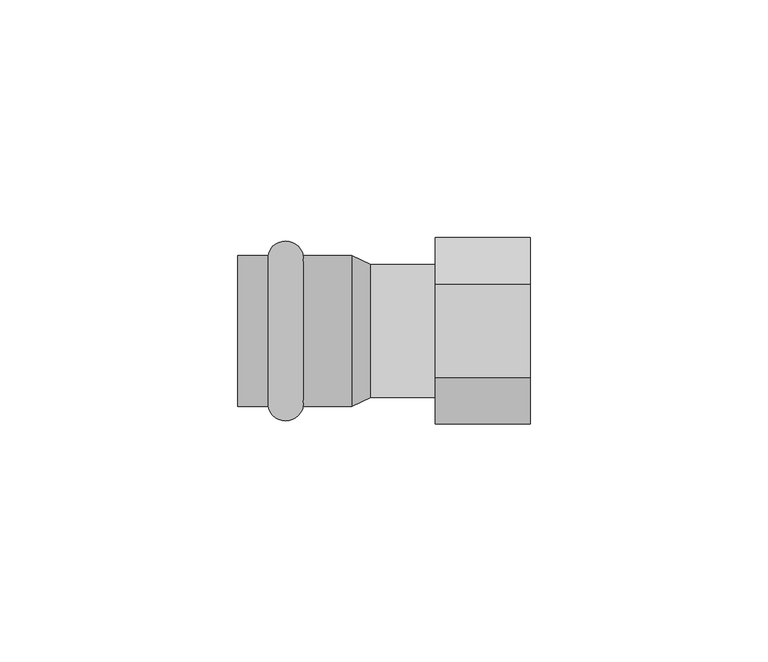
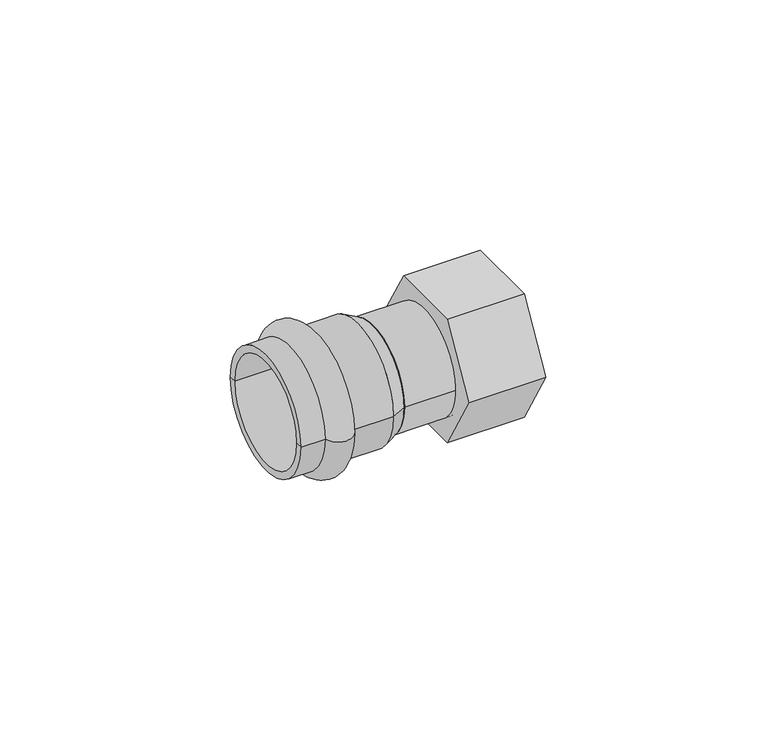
"""IFC4 building model written with IfcOpenShell, lengths in millimetres: pipe fitting geometry, VALTEC_VTi.908.I_Соединитель с накидной гайкой_Нержавеющая сталь : VTi.908.I."""

from ifc_helpers import new_model, si_unit, point, frame, origin, origin_2d, place, context, project, spatial, polyline, circle_curve, ellipse_curve, trimmed, segment, composite_curve, outline, extrude, source, transform, mapped, element, save
from ifc_brep_helpers import plane_surface, cylinder_surface, revolved_surface, advanced_brep


def pipe_fitting_75d1bc3f(model_context):
    return source(origin(), model_context, "Body", "SolidModel", [
        advanced_brep(
        [(-45.1242346, -15.9, 0.0), (-45.1242346, 15.9, 0.0), (-37.7757654, 15.9, 0.0), (-37.7757654, -15.9, 0.0), (-51.5, -15.9, 0.0), (-51.5, 15.9, 0.0), (-51.5, -14.0, 0.0), (-51.5, 14.0, 0.0), (-27.5, -14.0, 0.0), (-27.5, 14.0, 0.0), (-27.5, -15.9, 0.0), (-27.5, 15.9, 0.0)],
        [
            (0, 1, circle_curve(frame((-45.1242346, 0.0, 0.0), z_axis=(1.0, 0.0, 0.0), x_axis=(0.0, 1.0, 0.0)), 15.9)),
            (1, 2, circle_curve(frame((-41.45, 15.15, 0.0), z_axis=(0.0, 0.0, -1.0), x_axis=(1.0, 0.0, 0.0)), 3.75)),
            (2, 3, circle_curve(frame((-37.7757654, 0.0, 0.0), z_axis=(-1.0, 0.0, 0.0), x_axis=(0.0, 1.0, 0.0)), 15.9)),
            (3, 0, circle_curve(frame((-41.45, -15.15, 0.0), z_axis=(0.0, 0.0, -1.0), x_axis=(1.0, 0.0, 0.0)), 3.75)),
            (1, 0, circle_curve(frame((-45.1242346, 0.0, 0.0), z_axis=(1.0, 0.0, 0.0), x_axis=(0.0, 1.0, 0.0)), 15.9)),
            (3, 2, circle_curve(frame((-37.7757654, 0.0, 0.0), z_axis=(-1.0, 0.0, 0.0), x_axis=(0.0, 1.0, 0.0)), 15.9)),
            (4, 5, circle_curve(frame((-51.5, 0.0, 0.0), z_axis=(1.0, 0.0, 0.0), x_axis=(0.0, 1.0, 0.0)), 15.9)),
            (5, 1),
            (0, 4),
            (5, 4, circle_curve(frame((-51.5, 0.0, 0.0), z_axis=(1.0, 0.0, 0.0), x_axis=(0.0, 1.0, 0.0)), 15.9)),
            (6, 7, circle_curve(frame((-51.5, 0.0, 0.0), z_axis=(1.0, 0.0, 0.0), x_axis=(0.0, 1.0, 0.0)), 14.0)),
            (7, 5),
            (4, 6),
            (7, 6, circle_curve(frame((-51.5, 0.0, 0.0), z_axis=(1.0, 0.0, 0.0), x_axis=(0.0, 1.0, 0.0)), 14.0)),
            (8, 9, circle_curve(frame((-27.5, 0.0, 0.0), z_axis=(1.0, 0.0, 0.0), x_axis=(0.0, 1.0, 0.0)), 14.0)),
            (9, 7),
            (6, 8),
            (9, 8, circle_curve(frame((-27.5, 0.0, 0.0), z_axis=(1.0, 0.0, 0.0), x_axis=(0.0, 1.0, 0.0)), 14.0)),
            (10, 11, circle_curve(frame((-27.5, 0.0, 0.0), z_axis=(1.0, 0.0, 0.0), x_axis=(0.0, 1.0, 0.0)), 15.9)),
            (11, 9),
            (8, 10),
            (11, 10, circle_curve(frame((-27.5, 0.0, 0.0), z_axis=(1.0, 0.0, 0.0), x_axis=(0.0, 1.0, 0.0)), 15.9)),
            (2, 11),
            (10, 3),
        ],
        [
            revolved_surface(trimmed(ellipse_curve(frame((-41.45, 15.15, 0.0), z_axis=(0.0, 0.0, 1.0), x_axis=(1.0, 0.0, 0.0)), 3.75, 3.75), [point((-37.7757654, 15.9, 0.0))], [point((-45.1242346, 15.9, 0.0))], True, "CARTESIAN"), (-55.0364426, 0.0, 0.0), (-1.0, 0.0, 0.0)),
            cylinder_surface(frame((-55.0364426, 0.0, 0.0), z_axis=(-1.0, 0.0, 0.0), x_axis=(0.0, 1.0, 0.0)), 15.9),
            plane_surface(frame((-51.5, 0.0, 0.0), z_axis=(-1.0, 0.0, 0.0), x_axis=(0.0, 1.0, 0.0))),
            revolved_surface(polyline([(-51.5, 14.0, 0.0), (-27.5, 14.0, 0.0)]), (-55.0364426, 0.0, 0.0), (-1.0, 0.0, 0.0)),
            plane_surface(frame((-27.5, 0.0, 0.0), z_axis=(1.0, 0.0, 0.0), x_axis=(0.0, 1.0, 0.0))),
        ],
        [
            (0, [[1, 2, 3, 4]]),
            (0, [[5, -4, 6, -2]]),
            (1, [[7, 8, -1, 9]]),
            (1, [[10, -9, -5, -8]]),
            (2, [[11, 12, -7, 13]]),
            (2, [[14, -13, -10, -12]]),
            (3, [[15, 16, -11, 17]]),
            (3, [[18, -17, -14, -16]]),
            (4, [[19, 20, -15, 21]]),
            (4, [[22, -21, -18, -20]]),
            (1, [[-3, 23, -19, 24]]),
            (1, [[-6, -24, -22, -23]]),
        ],
    ),
        extrude(outline(polyline([(-19.6299092, 0.0), (-9.8149546, 17.0), (9.8149546, 17.0), (19.6299092, 0.0), (9.8149546, -17.0), (-9.8149546, -17.0), (-19.6299092, 0.0)])), frame((-10.0, 0.0, 0.0), z_axis=(1.0, 0.0, 0.0), x_axis=(0.0, 1.0, 0.0)), (0.0, 0.0, 1.0), 20.0),
        extrude(outline(composite_curve([segment(trimmed(circle_curve(origin_2d(), 14.0), [point((-14.0, 0.0))], [point((14.0, 0.0))], False, "CARTESIAN"), True, "CONTINUOUS"), segment(trimmed(circle_curve(origin_2d(), 14.0), [point((14.0, 0.0))], [point((-14.0, 0.0))], False, "CARTESIAN"), True, "CONTINUOUS")], self_intersect=False)), frame((-23.5, 0.0, 0.0), z_axis=(1.0, 0.0, 0.0), x_axis=(0.0, 1.0, 0.0)), (0.0, 0.0, 1.0), 15.0),
        advanced_brep(
        [(-23.5, -14.0, 0.0), (-23.5, 14.0, 0.0), (-27.5, -15.9, 0.0), (-27.5, 15.9, 0.0)],
        [
            (0, 1, circle_curve(frame((-23.5, 0.0, 0.0), z_axis=(1.0, 0.0, 0.0), x_axis=(0.0, -1.0, 0.0)), 14.0)),
            (1, 0, circle_curve(frame((-23.5, 0.0, 0.0), z_axis=(1.0, 0.0, 0.0), x_axis=(0.0, 1.0, 0.0)), 14.0)),
            (2, 3, circle_curve(frame((-27.5, 0.0, 0.0), z_axis=(-1.0, 0.0, 0.0), x_axis=(0.0, 1.0, 0.0)), 15.9)),
            (3, 2, circle_curve(frame((-27.5, 0.0, 0.0), z_axis=(-1.0, 0.0, 0.0), x_axis=(0.0, -1.0, 0.0)), 15.9)),
            (3, 1),
            (0, 2),
        ],
        [
            plane_surface(frame((-23.5, 0.0, 0.0), z_axis=(1.0, 0.0, 0.0), x_axis=(0.0, 0.0, -1.0))),
            plane_surface(frame((-27.5, 0.0, 0.0), z_axis=(-1.0, 0.0, 0.0), x_axis=(0.0, 0.0, -1.0))),
            revolved_surface(polyline([(-23.5, -13.999999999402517, 0.0), (-27.5, -15.9, 0.0)]), (5.9736842, 0.0, 0.0), (-1.0, 0.0, 0.0)),
            revolved_surface(polyline([(-23.5, 13.999999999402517, 0.0), (-27.5, 15.9, 0.0)]), (5.9736842, 0.0, 0.0), (-1.0, 0.0, 0.0)),
        ],
        [
            (0, [[1, 2]]),
            (1, [[3, 4]]),
            (2, [[-4, 5, -1, 6]]),
            (3, [[-3, -6, -2, -5]]),
        ],
    ),
    ])


if __name__ == "__main__":
    model = new_model("IFC4")
    model_context = context("Model", 3, world=origin())
    ifc_project = project(units=[si_unit("LENGTHUNIT", "METRE", prefix="MILLI")], contexts=[model_context])
    site = spatial("IfcSite", under=ifc_project)
    building = spatial("IfcBuilding", under=site)
    placement = place(None, origin())
    pipe_fitting_shape = pipe_fitting_75d1bc3f(model_context)
    element("IfcPipeFitting", 1, ObjectType="VALTEC_VTi.908.I_Соединитель с накидной гайкой_Нержавеющая сталь : VTi.908.I", at=placement, inside=building, context=model_context, shape_type="MappedRepresentation", body=[
        mapped(pipe_fitting_shape, transform((0.0, 0.0, 0.0), x_axis=(1.0, 0.0, 0.0), y_axis=(0.0, 1.0, 0.0), z_axis=(0.0, 0.0, 1.0))),
    ])
    save(model, "model.ifc")
